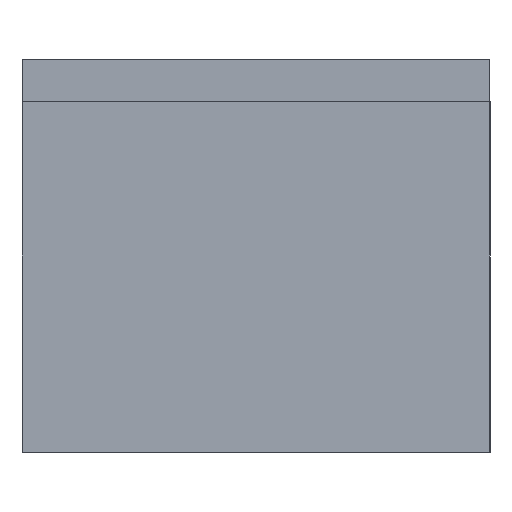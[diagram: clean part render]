
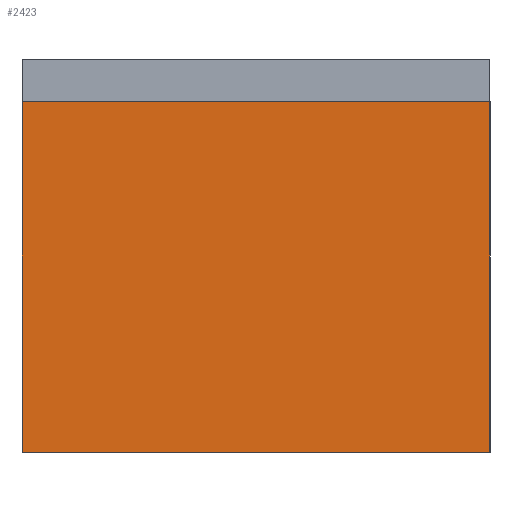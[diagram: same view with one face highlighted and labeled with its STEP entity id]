
A CAD part, left-side view. The second image highlights one B-rep face of the part: STEP entity #2423.
In plain terms, the highlighted planar face has unit normal (-1, 0, 0) as drawn and (0, 0, -1) by its records, which use the part's own axes.
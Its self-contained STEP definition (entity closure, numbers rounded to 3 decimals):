
#164=PLANE('',#2717);
#306=FACE_OUTER_BOUND('',#476,.T.);
#476=EDGE_LOOP('',(#2209,#2210,#2211,#2212));
#705=LINE('',#4097,#943);
#706=LINE('',#4099,#944);
#707=LINE('',#4101,#945);
#708=LINE('',#4102,#946);
#943=VECTOR('',#3398,10.);
#944=VECTOR('',#3399,10.);
#945=VECTOR('',#3400,10.);
#946=VECTOR('',#3401,10.);
#1257=VERTEX_POINT('',#4095);
#1258=VERTEX_POINT('',#4096);
#1259=VERTEX_POINT('',#4098);
#1260=VERTEX_POINT('',#4100);
#1577=EDGE_CURVE('',#1257,#1258,#705,.T.);
#1578=EDGE_CURVE('',#1258,#1259,#706,.T.);
#1579=EDGE_CURVE('',#1259,#1260,#707,.T.);
#1580=EDGE_CURVE('',#1260,#1257,#708,.T.);
#2209=ORIENTED_EDGE('',*,*,#1577,.T.);
#2210=ORIENTED_EDGE('',*,*,#1578,.T.);
#2211=ORIENTED_EDGE('',*,*,#1579,.T.);
#2212=ORIENTED_EDGE('',*,*,#1580,.T.);
#2423=ADVANCED_FACE('',(#306),#164,.F.);
#2717=AXIS2_PLACEMENT_3D('',#4094,#3396,#3397);
#3396=DIRECTION('center_axis',(0.,0.,
1.));
#3397=DIRECTION('ref_axis',(0.,-1.,0.));
#3398=DIRECTION('',(-1.,0.,0.));
#3399=DIRECTION('',(0.,1.,0.));
#3400=DIRECTION('',(1.,0.,0.));
#3401=DIRECTION('',(0.,-1.,0.));
#4094=CARTESIAN_POINT('Origin',(1095.818,-96.945,-0.01));
#4095=CARTESIAN_POINT('',(1170.818,-196.945,-0.01));
#4096=CARTESIAN_POINT('',(1020.818,-196.945,-0.01));
#4097=CARTESIAN_POINT('',(1095.818,-196.945,-0.01));
#4098=CARTESIAN_POINT('',(1020.818,3.055,-0.01));
#4099=CARTESIAN_POINT('',(1020.818,-96.945,-0.01));
#4100=CARTESIAN_POINT('',(1170.818,3.055,-0.01));
#4101=CARTESIAN_POINT('',(1095.818,3.055,-0.01));
#4102=CARTESIAN_POINT('',(1170.818,-96.945,-0.01));
